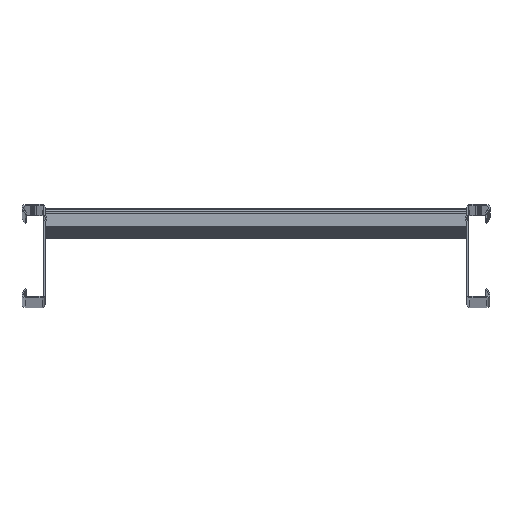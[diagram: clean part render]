
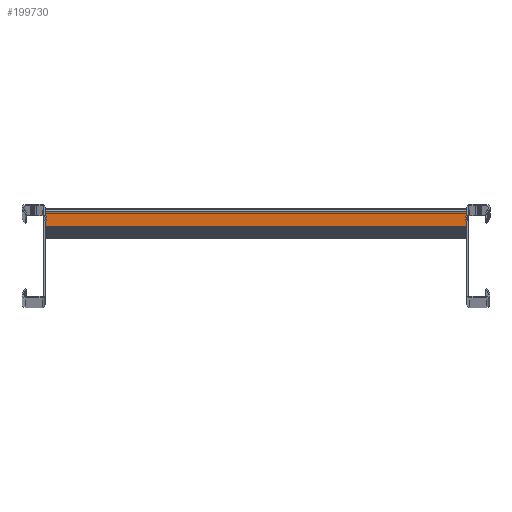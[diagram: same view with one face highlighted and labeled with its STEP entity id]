
A CAD part, top view. The second image highlights one B-rep face of the part: STEP entity #199730.
In plain terms, the highlighted planar face has unit normal (0, 0, 1) as drawn and (1, 0, 0) by its records, which use the part's own axes.
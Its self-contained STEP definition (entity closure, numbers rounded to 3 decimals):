
#190630=CARTESIAN_POINT('',(39.75,881.,150.));
#190640=VERTEX_POINT('',#190630);
#190670=CARTESIAN_POINT('',(39.75,0.,150.));
#190680=DIRECTION('',(0.,-1.,0.));
#190690=VECTOR('',#190680,1.);
#190700=LINE('',#190670,#190690);
#190710=CARTESIAN_POINT('',(39.75,897.,150.));
#190720=VERTEX_POINT('',#190710);
#190730=EDGE_CURVE('',#190720,#190640,#190700,.T.);
#199430=CARTESIAN_POINT('',(39.75,900.,0.));
#199440=DIRECTION('',(1.,0.,0.));
#199450=DIRECTION('',(0.,-1.,0.));
#199460=AXIS2_PLACEMENT_3D('',#199430,#199440,#199450);
#199470=PLANE('',#199460);
#199480=ORIENTED_EDGE('',*,*,#190730,.F.);
#199490=CARTESIAN_POINT('',(39.75,881.,0.));
#199500=DIRECTION('',(0.,0.,1.));
#199510=VECTOR('',#199500,1.);
#199520=LINE('',#199490,#199510);
#199530=CARTESIAN_POINT('',(39.75,881.,600.));
#199540=VERTEX_POINT('',#199530);
#199550=EDGE_CURVE('',#190640,#199540,#199520,.T.);
#199560=ORIENTED_EDGE('',*,*,#199550,.F.);
#199570=CARTESIAN_POINT('',(39.75,0.,600.));
#199580=DIRECTION('',(0.,1.,0.));
#199590=VECTOR('',#199580,1.);
#199600=LINE('',#199570,#199590);
#199610=CARTESIAN_POINT('',(39.75,897.,600.));
#199620=VERTEX_POINT('',#199610);
#199630=EDGE_CURVE('',#199540,#199620,#199600,.T.);
#199640=ORIENTED_EDGE('',*,*,#199630,.F.);
#199650=CARTESIAN_POINT('',(39.75,897.,0.));
#199660=DIRECTION('',(0.,0.,1.));
#199670=VECTOR('',#199660,1.);
#199680=LINE('',#199650,#199670);
#199690=EDGE_CURVE('',#190720,#199620,#199680,.T.);
#199700=ORIENTED_EDGE('',*,*,#199690,.T.);
#199710=EDGE_LOOP('',(#199700,#199640,#199560,#199480));
#199720=FACE_OUTER_BOUND('',#199710,.T.);
#199730=ADVANCED_FACE('',(#199720),#199470,.T.);
